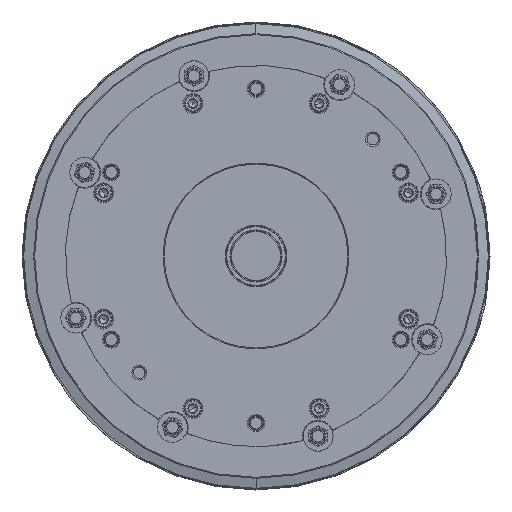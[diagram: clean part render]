
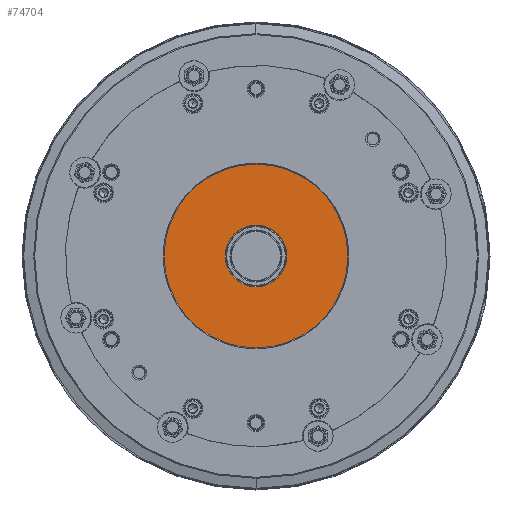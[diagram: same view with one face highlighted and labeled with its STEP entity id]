
A CAD part, left-side view. The second image highlights one B-rep face of the part: STEP entity #74704.
In plain terms, the highlighted planar face has unit normal (-1, 0, 0).
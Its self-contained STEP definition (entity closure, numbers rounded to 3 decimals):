
#9707 = ORIENTED_EDGE ( 'NONE', *, *, #108228, .T. ) ;
#11110 = DIRECTION ( 'NONE',  ( 1., 0., 0. ) ) ;
#12676 = DIRECTION ( 'NONE',  ( -1., 0., 0. ) ) ;
#14971 = VERTEX_POINT ( 'NONE', #50333 ) ;
#22185 = VERTEX_POINT ( 'NONE', #99720 ) ;
#22648 = EDGE_LOOP ( 'NONE', ( #87375, #129953 ) ) ;
#29547 = CIRCLE ( 'NONE', #46870, 18.4 ) ;
#34304 = DIRECTION ( 'NONE',  ( 0., 0., 1. ) ) ;
#46870 = AXIS2_PLACEMENT_3D ( 'NONE', #81541, #11110, #51058 ) ;
#50333 = CARTESIAN_POINT ( 'NONE',  ( -109., 0., 55. ) ) ;
#51058 = DIRECTION ( 'NONE',  ( 0., 0., -1. ) ) ;
#51155 = AXIS2_PLACEMENT_3D ( 'NONE', #93886, #124985, #52611 ) ;
#51268 = AXIS2_PLACEMENT_3D ( 'NONE', #74777, #76769, #66600 ) ;
#52611 = DIRECTION ( 'NONE',  ( 0., 0., -1. ) ) ;
#52780 = DIRECTION ( 'NONE',  ( 1., 0., 0. ) ) ;
#53406 = CIRCLE ( 'NONE', #51155, 18.4 ) ;
#63583 = CARTESIAN_POINT ( 'NONE',  ( -109., 0., 0. ) ) ;
#64416 = EDGE_LOOP ( 'NONE', ( #100061, #9707 ) ) ;
#66600 = DIRECTION ( 'NONE',  ( 0., 0., -1. ) ) ;
#74704 = ADVANCED_FACE ( 'NONE', ( #74967, #99112 ), #115545, .T. ) ;
#74777 = CARTESIAN_POINT ( 'NONE',  ( -109., 0., 0. ) ) ;
#74967 = FACE_BOUND ( 'NONE', #64416, .T. ) ;
#76769 = DIRECTION ( 'NONE',  ( 1., 0., 0. ) ) ;
#81541 = CARTESIAN_POINT ( 'NONE',  ( -109., 0., 0. ) ) ;
#82496 = EDGE_CURVE ( 'NONE', #103665, #22185, #29547, .T. ) ;
#85262 = CARTESIAN_POINT ( 'NONE',  ( -109., 0., 18.4 ) ) ;
#87375 = ORIENTED_EDGE ( 'NONE', *, *, #129072, .F. ) ;
#88375 = AXIS2_PLACEMENT_3D ( 'NONE', #105397, #12676, #34304 ) ;
#93886 = CARTESIAN_POINT ( 'NONE',  ( -109., 0., 0. ) ) ;
#94054 = DIRECTION ( 'NONE',  ( 0., 0., -1. ) ) ;
#99112 = FACE_OUTER_BOUND ( 'NONE', #22648, .T. ) ;
#99720 = CARTESIAN_POINT ( 'NONE',  ( -109., 0., -18.4 ) ) ;
#100061 = ORIENTED_EDGE ( 'NONE', *, *, #82496, .T. ) ;
#101958 = CARTESIAN_POINT ( 'NONE',  ( -109., 0., -55. ) ) ;
#102074 = CIRCLE ( 'NONE', #127932, 55. ) ;
#103665 = VERTEX_POINT ( 'NONE', #85262 ) ;
#105397 = CARTESIAN_POINT ( 'NONE',  ( -109., 18.4, 0. ) ) ;
#106184 = VERTEX_POINT ( 'NONE', #101958 ) ;
#108228 = EDGE_CURVE ( 'NONE', #22185, #103665, #53406, .T. ) ;
#115545 = PLANE ( 'NONE',  #88375 ) ;
#121658 = EDGE_CURVE ( 'NONE', #14971, #106184, #122542, .T. ) ;
#122542 = CIRCLE ( 'NONE', #51268, 55. ) ;
#124985 = DIRECTION ( 'NONE',  ( 1., 0., 0. ) ) ;
#127932 = AXIS2_PLACEMENT_3D ( 'NONE', #63583, #52780, #94054 ) ;
#129072 = EDGE_CURVE ( 'NONE', #106184, #14971, #102074, .T. ) ;
#129953 = ORIENTED_EDGE ( 'NONE', *, *, #121658, .F. ) ;
